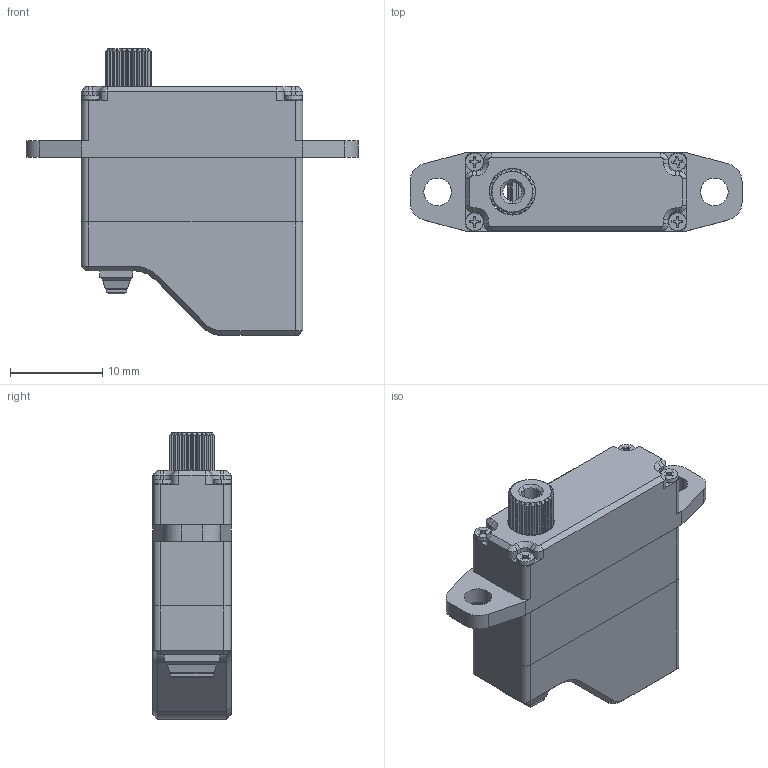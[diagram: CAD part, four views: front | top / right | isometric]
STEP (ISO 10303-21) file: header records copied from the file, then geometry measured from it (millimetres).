
FILE_DESCRIPTION (( 'STEP AP214' ), '1' );
FILE_NAME ('HV85_DM_20230201.STEP', '2023-02-01T06:59:41', ( '微软用户' ), ( '微软中国' ), 'SwSTEP 2.0', 'SolidWorks 2016', '' );
FILE_SCHEMA (( 'AUTOMOTIVE_DESIGN' ));
Length unit declared in the file: millimetre
Products named in the file (1): HV85_DM_20230201
Bounding box: 36 x 8.5 x 31.1 mm (x, y, z)
Surface area: 2447.4 mm2 (no closed solid volume)
Topology: 0 solids, 12 shells, 379 faces, 1079 edges, 719 vertices
Faces by surface type: plane 204, cylinder 115, cone 44, bspline 16
Entity records: 16988 total; most frequent: CARTESIAN_POINT 2990, ORIENTED_EDGE 2034, DIRECTION 2004, EDGE_CURVE 1079, VERTEX_POINT 719, AXIS2_PLACEMENT_3D 678, VECTOR 648, LINE 648
